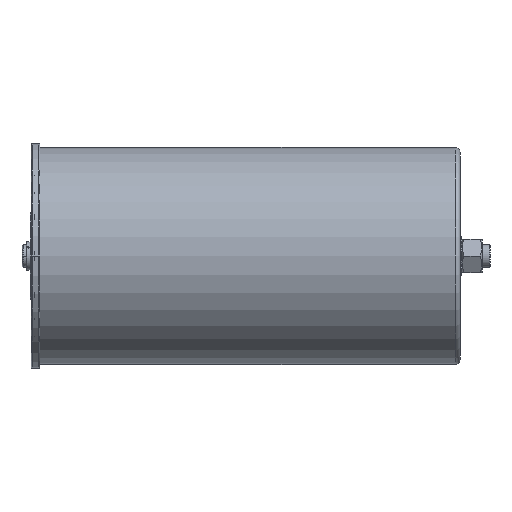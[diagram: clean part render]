
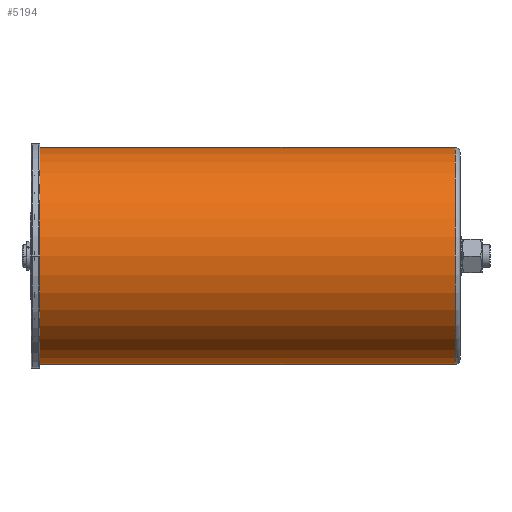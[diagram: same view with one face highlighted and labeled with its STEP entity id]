
A CAD part, left-side view. The second image highlights one B-rep face of the part: STEP entity #5194.
In plain terms, the highlighted cylindrical face has radius 58 mm (diameter 116 mm), a partial arc.
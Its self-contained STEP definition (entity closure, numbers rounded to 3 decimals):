
#180 = CARTESIAN_POINT ( 'NONE',  ( 0., -224.9, 0. ) ) ;
#348 = CIRCLE ( 'NONE', #1176, 58. ) ;
#1176 = AXIS2_PLACEMENT_3D ( 'NONE', #2560, #5438, #10211 ) ;
#1248 = ORIENTED_EDGE ( 'NONE', *, *, #4685, .F. ) ;
#1666 = VERTEX_POINT ( 'NONE', #7384 ) ;
#1830 = ORIENTED_EDGE ( 'NONE', *, *, #4728, .T. ) ;
#2560 = CARTESIAN_POINT ( 'NONE',  ( 0., -0.6, 0. ) ) ;
#2607 = DIRECTION ( 'NONE',  ( 0., -1., 0. ) ) ;
#3209 = DIRECTION ( 'NONE',  ( 0., 0., -1. ) ) ;
#3660 = ORIENTED_EDGE ( 'NONE', *, *, #5965, .T. ) ;
#4262 = CIRCLE ( 'NONE', #8778, 58. ) ;
#4685 = EDGE_CURVE ( 'NONE', #1666, #11403, #8312, .T. ) ;
#4728 = EDGE_CURVE ( 'NONE', #6969, #7893, #12208, .T. ) ;
#5194 = ADVANCED_FACE ( 'NONE', ( #10094 ), #9345, .T. ) ;
#5438 = DIRECTION ( 'NONE',  ( 0., -1., 0. ) ) ;
#5598 = EDGE_CURVE ( 'NONE', #7893, #11403, #4262, .T. ) ;
#5725 = CARTESIAN_POINT ( 'NONE',  ( 0., -224.9, -58. ) ) ;
#5965 = EDGE_CURVE ( 'NONE', #1666, #6969, #348, .T. ) ;
#6633 = DIRECTION ( 'NONE',  ( 0., 0., -1. ) ) ;
#6677 = DIRECTION ( 'NONE',  ( 0., -1., 0. ) ) ;
#6708 = DIRECTION ( 'NONE',  ( 0., -1., 0. ) ) ;
#6944 = EDGE_LOOP ( 'NONE', ( #1248, #3660, #1830, #10556 ) ) ;
#6969 = VERTEX_POINT ( 'NONE', #8929 ) ;
#7384 = CARTESIAN_POINT ( 'NONE',  ( 0., -0.6, 58. ) ) ;
#7551 = CARTESIAN_POINT ( 'NONE',  ( 0., -227.4, 0. ) ) ;
#7893 = VERTEX_POINT ( 'NONE', #5725 ) ;
#7900 = AXIS2_PLACEMENT_3D ( 'NONE', #7551, #6708, #6633 ) ;
#8312 = LINE ( 'NONE', #8336, #9211 ) ;
#8336 = CARTESIAN_POINT ( 'NONE',  ( 0., -227.4, 58. ) ) ;
#8725 = CARTESIAN_POINT ( 'NONE',  ( 0., -224.9, 58. ) ) ;
#8778 = AXIS2_PLACEMENT_3D ( 'NONE', #180, #9755, #3209 ) ;
#8929 = CARTESIAN_POINT ( 'NONE',  ( 0., -0.6, -58. ) ) ;
#9065 = VECTOR ( 'NONE', #6677, 1000. ) ;
#9211 = VECTOR ( 'NONE', #2607, 1000. ) ;
#9345 = CYLINDRICAL_SURFACE ( 'NONE', #7900, 58. ) ;
#9755 = DIRECTION ( 'NONE',  ( 0., 1., 0. ) ) ;
#10094 = FACE_OUTER_BOUND ( 'NONE', #6944, .T. ) ;
#10211 = DIRECTION ( 'NONE',  ( 0., 0., -1. ) ) ;
#10556 = ORIENTED_EDGE ( 'NONE', *, *, #5598, .T. ) ;
#11403 = VERTEX_POINT ( 'NONE', #8725 ) ;
#11673 = CARTESIAN_POINT ( 'NONE',  ( 0., -227.4, -58. ) ) ;
#12208 = LINE ( 'NONE', #11673, #9065 ) ;
